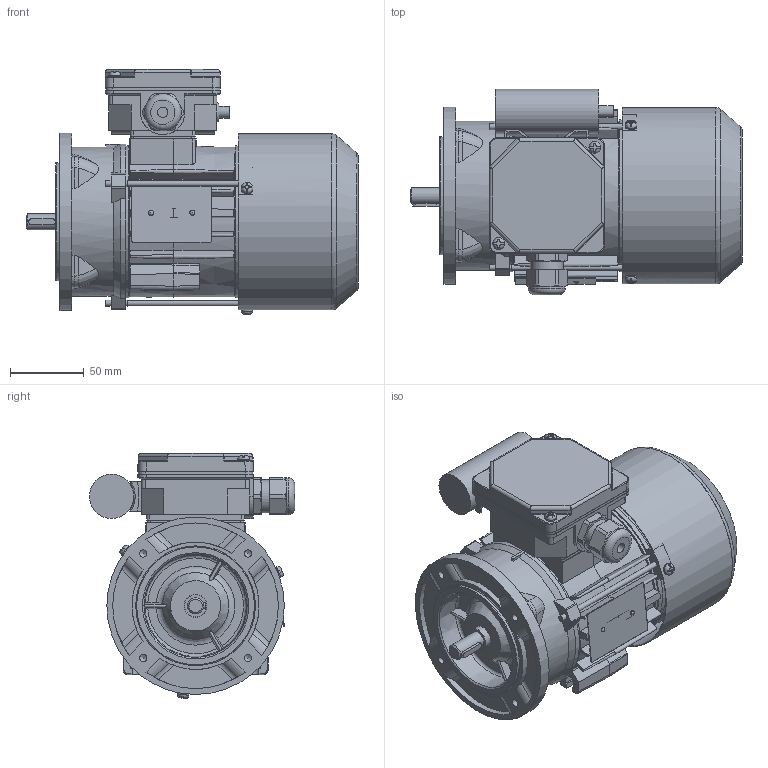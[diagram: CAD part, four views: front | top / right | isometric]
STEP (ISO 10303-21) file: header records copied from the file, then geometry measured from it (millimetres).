
FILE_DESCRIPTION(/* description */ ('Unknown'),/* implementation_level */ '2;1');
FILE_NAME(/* name */ '3SSIEK63-4A1',/* time_stamp */ '2024-06-17T09:01:49+02:00',/* author */ ('Unknown'),/* organization */ ('Unknown'),/* preprocessor_version */ 'ST-DEVELOPER v16.7',/* originating_system */ 'Solid Edge',/* authorisation */ 'Unknown');
FILE_SCHEMA (('AUTOMOTIVE_DESIGN {1 0 10303 214 3 1 1}'));
Length unit declared in the file: millimetre
Products named in the file (1): Czêœæ3
Bounding box: 224.49 x 138.82 x 165.7 mm (x, y, z)
Volume: 573800.6 mm3; surface area: 342673.9 mm2
Topology: 3 solids, 3 shells, 1887 faces, 5294 edges, 3447 vertices
Faces by surface type: plane 952, cylinder 551, torus 131, bspline 117, cone 115, sphere 21
Full cylindrical faces by diameter (mm): 2.4 x2, 3 x1, 3.7 x7, 4 x8, 4.5 x5, 4.6 x1, 4.8 x2, 5 x6, 6.5 x1, 7 x4, 7.999 x1, 8 x6, 10.999 x1, 12.899 x1, 13.099 x1, 14.998 x2, 15.4 x2, 18.998 x2, 19.498 x1, 19.998 x1, 20.098 x1, 21.518 x4, 22.3 x1, 25 x1, 28 x2, 28.48 x4, 29.997 x1, 31 x2, 35 x3, 71.993 x1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
Entity records: 76008 total; most frequent: CARTESIAN_POINT 16307, ORIENTED_EDGE 9922, DIRECTION 9230, EDGE_CURVE 4961, AXIS2_PLACEMENT_3D 3398, VERTEX_POINT 3323, LINE 2434, VECTOR 2434
